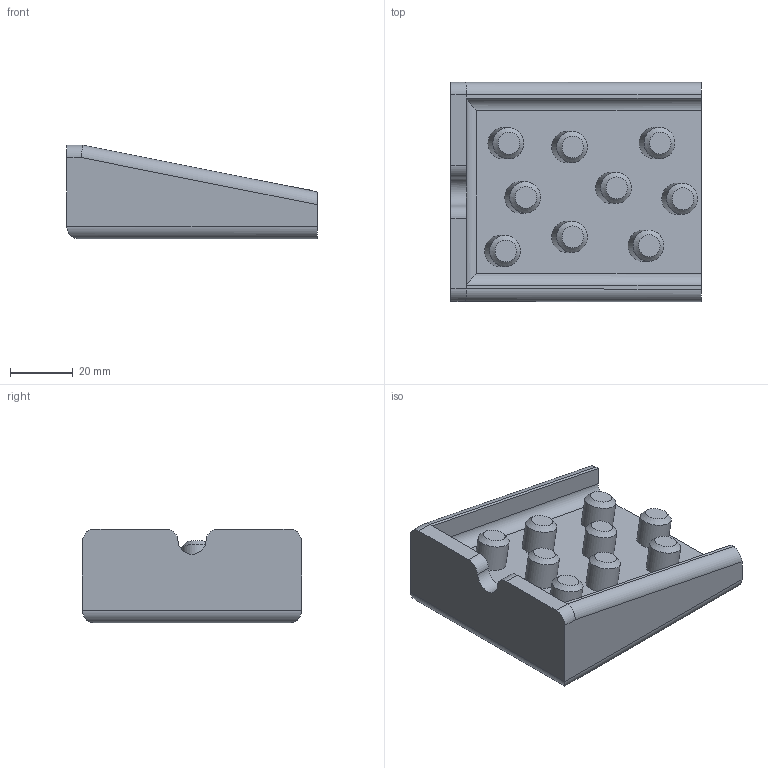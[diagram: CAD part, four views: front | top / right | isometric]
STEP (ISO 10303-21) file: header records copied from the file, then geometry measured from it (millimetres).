
FILE_DESCRIPTION(/* description */ ('STEP AP242 Edition 2','CAx-IF Rec.Pracs.---Representation and Presentation of Product Manufacturing Information (PMI)---4.0---2014-10-13','CAx-IF Rec.Pracs.---3D Tessellated Geometry---0.4---2014-09-14','2;1','CAx-IF Rec.Pracs.---User Defined Attributes---1.5---2016-08-15'),/* implementation_level */ '2;1');
FILE_NAME(/* name */ 'Assembly 1 - Part 8',/* time_stamp */ '2026-10-18T18:48:31Z',/* author */ (''),/* organization */ (''),/* preprocessor_version */ 'ST-DEVELOPER v20',/* originating_system */ 'ONSHAPE BY PTC INC, 1.222',/* authorisation */ ' ');
FILE_SCHEMA (('AP242_MANAGED_MODEL_BASED_3D_ENGINEERING_MIM_LF { 1 0 10303 442 3 1 4 }'));
Length unit declared in the file: metre
Products named in the file (1): Part 8
Bounding box: 80 x 70 x 30 mm (x, y, z)
Volume: 87254.7 mm3; surface area: 21174.9 mm2
Topology: 1 solids, 1 shells, 54 faces, 123 edges, 80 vertices
Faces by surface type: plane 23, cylinder 22, cone 9
Full cylindrical faces by diameter (mm): 10 x9
Entity records: 1382 total; most frequent: DIRECTION 255, CARTESIAN_POINT 226, ORIENTED_EDGE 192, AXIS2_PLACEMENT_3D 105, EDGE_CURVE 96, EDGE_LOOP 81, FACE_BOUND 81, VERTEX_POINT 71
